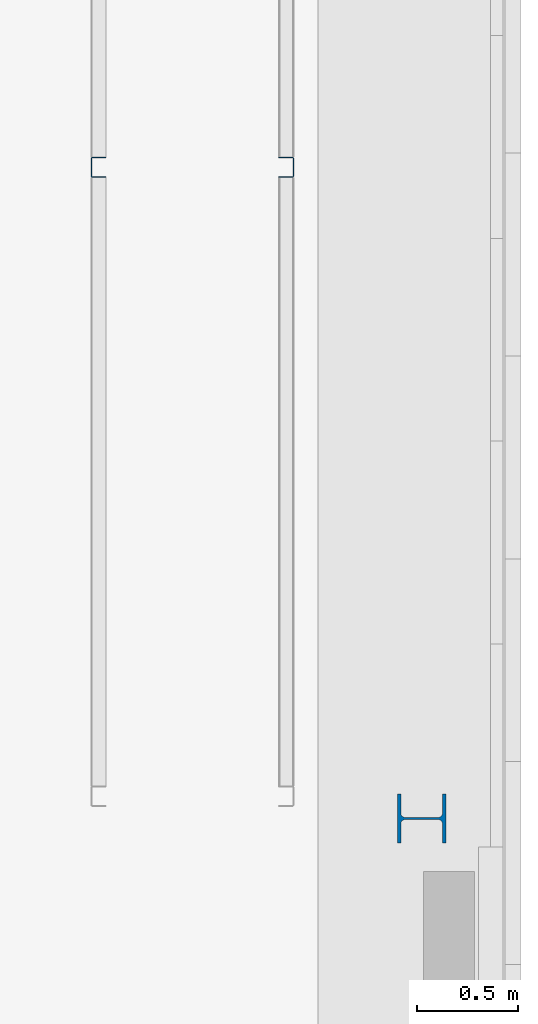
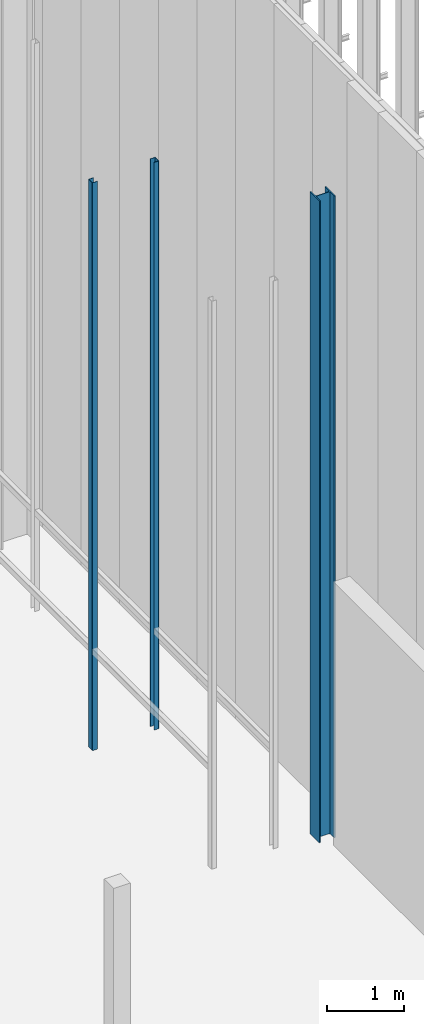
# One storey, part 14 of 302: 3 columns.
"""IFC2X3 building model written with IfcOpenShell, lengths in metres."""

from ifc_helpers import new_model, entity, si_unit, converted_unit, derived_unit, direction, frame, frame_2d, origin, place, context, subcontext, project, spatial, polyline, circle_curve, parameter, trimmed, segment, composite_curve, outline, extrude, source, transform, mapped, material, type_object, type_shapes, element, save


model = new_model("IFC2X3")

# Units and contexts
model_context = context("Model", 3, precision=1e-05, world=origin(), true_north=direction((6.12303176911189e-17, 1.0)))
body_context = subcontext(model_context, "Body", "Model", "MODEL_VIEW")
ifc_project = project(units=[si_unit("LENGTHUNIT", "METRE"), si_unit("AREAUNIT", "SQUARE_METRE"), si_unit("VOLUMEUNIT", "CUBIC_METRE"), converted_unit("PLANEANGLEUNIT", "DEGREE", entity("IfcRatioMeasure", 0.0174532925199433), si_unit("PLANEANGLEUNIT", "RADIAN"), dimensions=[0, 0, 0, 0, 0, 0, 0]), si_unit("MASSUNIT", "GRAM", prefix="KILO"), derived_unit("MASSDENSITYUNIT", [(si_unit("MASSUNIT", "GRAM", prefix="KILO"), 1), (si_unit("LENGTHUNIT", "METRE"), -3)]), derived_unit("MOMENTOFINERTIAUNIT", [(si_unit("LENGTHUNIT", "METRE"), 4)]), si_unit("TIMEUNIT", "SECOND"), si_unit("FREQUENCYUNIT", "HERTZ"), si_unit("THERMODYNAMICTEMPERATUREUNIT", "DEGREE_CELSIUS"), derived_unit("THERMALTRANSMITTANCEUNIT", [(si_unit("MASSUNIT", "GRAM", prefix="KILO"), 1), (si_unit("THERMODYNAMICTEMPERATUREUNIT", "KELVIN"), -1), (si_unit("TIMEUNIT", "SECOND"), -3)]), derived_unit("VOLUMETRICFLOWRATEUNIT", [(si_unit("LENGTHUNIT", "METRE"), 3), (si_unit("TIMEUNIT", "SECOND"), -1)]), si_unit("ELECTRICCURRENTUNIT", "AMPERE"), si_unit("ELECTRICVOLTAGEUNIT", "VOLT"), si_unit("POWERUNIT", "WATT"), si_unit("FORCEUNIT", "NEWTON", prefix="KILO"), si_unit("ILLUMINANCEUNIT", "LUX"), si_unit("LUMINOUSFLUXUNIT", "LUMEN"), si_unit("LUMINOUSINTENSITYUNIT", "CANDELA"), derived_unit("USERDEFINED", [(si_unit("MASSUNIT", "GRAM", prefix="KILO"), -1), (si_unit("LENGTHUNIT", "METRE"), -2), (si_unit("TIMEUNIT", "SECOND"), 3), (si_unit("LUMINOUSFLUXUNIT", "LUMEN"), 1)]), derived_unit("LINEARVELOCITYUNIT", [(si_unit("LENGTHUNIT", "METRE"), 1), (si_unit("TIMEUNIT", "SECOND"), -1)]), si_unit("PRESSUREUNIT", "PASCAL"), derived_unit("USERDEFINED", [(si_unit("LENGTHUNIT", "METRE"), -2), (si_unit("MASSUNIT", "GRAM", prefix="KILO"), 1), (si_unit("TIMEUNIT", "SECOND"), -2)]), derived_unit("LINEARFORCEUNIT", [(si_unit("MASSUNIT", "GRAM", prefix="KILO"), 1), (si_unit("LENGTHUNIT", "METRE"), 1), (si_unit("TIMEUNIT", "SECOND"), -2), (si_unit("LENGTHUNIT", "METRE"), -1)]), derived_unit("PLANARFORCEUNIT", [(si_unit("MASSUNIT", "GRAM", prefix="KILO"), 1), (si_unit("LENGTHUNIT", "METRE"), 1), (si_unit("TIMEUNIT", "SECOND"), -2), (si_unit("LENGTHUNIT", "METRE"), -2)])], contexts=[model_context])

# Site, building, storey
site_placement = place(None, origin())
site = spatial("IfcSite", under=ifc_project, at=site_placement, Name="Default", CompositionType="ELEMENT")
building_placement = place(site_placement, origin())
building = spatial("IfcBuilding", under=site, at=building_placement, CompositionType="ELEMENT")
storey_placement = place(building_placement, frame((0.0, 0.0, -1.3)))
storey = spatial("IfcBuildingStorey", under=building, at=storey_placement, Name="00_EG", CompositionType="ELEMENT", Elevation=-1.3)

# Columns
ifc_material = material(Name="Metall - Baustahl S235")
column_type_1 = type_object("IfcColumnType", Name="HEB Stütze:HEB 240", PredefinedType="COLUMN", material=ifc_material)
shared_shape_1 = source(origin(), body_context, "Body", "SweptSolid", [
    extrude(outline(composite_curve([segment(polyline([(0.103, -0.12), (0.12, -0.12)]), True, "CONTINUOUS"), segment(polyline([(0.12, -0.12), (0.12, 0.12)]), True, "CONTINUOUS"), segment(polyline([(0.12, 0.12), (0.103, 0.12)]), True, "CONTINUOUS"), segment(polyline([(0.103, 0.12), (0.103, 0.0268)]), True, "CONTINUOUS"), segment(trimmed(circle_curve(frame_2d((0.0812, 0.0268), x_axis=(1.0, 0.0)), 0.0218), [parameter(269.999999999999)], [parameter(0.0)], True, "PARAMETER"), False, "CONTINUOUS"), segment(polyline([(0.0811999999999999, 0.005), (-0.0812, 0.005)]), True, "CONTINUOUS"), segment(trimmed(circle_curve(frame_2d((-0.0812, 0.0268), x_axis=(0.0, -1.0)), 0.0218), [parameter(270.0)], [parameter(0.0)], True, "PARAMETER"), False, "CONTINUOUS"), segment(polyline([(-0.103, 0.0268), (-0.103, 0.12)]), True, "CONTINUOUS"), segment(polyline([(-0.103, 0.12), (-0.12, 0.12)]), True, "CONTINUOUS"), segment(polyline([(-0.12, 0.12), (-0.12, -0.12)]), True, "CONTINUOUS"), segment(polyline([(-0.12, -0.12), (-0.103, -0.12)]), True, "CONTINUOUS"), segment(polyline([(-0.103, -0.12), (-0.103, -0.0268)]), True, "CONTINUOUS"), segment(trimmed(circle_curve(frame_2d((-0.0812, -0.0268), x_axis=(-1.0, 0.0)), 0.0218), [parameter(269.999999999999)], [parameter(0.0)], True, "PARAMETER"), False, "CONTINUOUS"), segment(polyline([(-0.0812, -0.00499999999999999), (0.0812, -0.00499999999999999)]), True, "CONTINUOUS"), segment(trimmed(circle_curve(frame_2d((0.0812, -0.0267999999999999), x_axis=(0.0, 1.0)), 0.0218), [parameter(269.999999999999)], [parameter(0.0)], True, "PARAMETER"), False, "CONTINUOUS"), segment(polyline([(0.103, -0.0268), (0.103, -0.12)]), True, "CONTINUOUS")], self_intersect=False)), frame((0.0, 0.0, -0.0300000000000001), z_axis=(0.0, 0.0, 1.0), x_axis=(0.0, -1.0, 0.0)), (0.0, 0.0, 1.0), 10.175),
])
type_shapes(column_type_1, [shared_shape_1])
column_1_placement = place(storey_placement, frame((-177.760111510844, 23.8880889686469, 1.3), z_axis=(0.0, 0.0, 1.0), x_axis=(0.0, -1.0, 0.0)))
element("IfcColumn", 1, at=column_1_placement, inside=storey, type_object=column_type_1, material=ifc_material, Name="HEB Stütze:HEB 240", ObjectType="HEB Stütze:HEB 240", context=body_context, shape_type="MappedRepresentation", body=[
    mapped(shared_shape_1, transform((0.0, 0.0, 0.0), scale=1.0)),
])
column_type_2 = type_object("IfcColumnType", Name="Leichter Stahl Schlossschrauben Stütze:C 100", PredefinedType="COLUMN", material=ifc_material)
shared_shape_2 = source(origin(), body_context, "Body", "SweptSolid", [
    extrude(outline(composite_curve([segment(polyline([(-0.0469749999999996, -0.0499999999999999), (0.0214500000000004, -0.0499999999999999)]), True, "CONTINUOUS"), segment(trimmed(circle_curve(frame_2d((0.0214500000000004, -0.0434249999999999), x_axis=(0.0, -1.0)), 0.00657500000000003), [parameter(0.0)], [parameter(89.9999999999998)], True, "PARAMETER"), True, "CONTINUOUS"), segment(polyline([(0.0280250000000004, -0.0434249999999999), (0.0280250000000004, 0.0434250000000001)]), True, "CONTINUOUS"), segment(trimmed(circle_curve(frame_2d((0.0214500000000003, 0.0434250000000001), x_axis=(1.0, 0.0)), 0.0065750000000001), [parameter(0.0)], [parameter(89.9999999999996)], True, "PARAMETER"), True, "CONTINUOUS"), segment(polyline([(0.0214500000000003, 0.0500000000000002), (-0.0469750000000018, 0.0500000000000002)]), True, "CONTINUOUS"), segment(polyline([(-0.0469750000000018, 0.0500000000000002), (-0.0469750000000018, 0.0450000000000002)]), True, "CONTINUOUS"), segment(polyline([(-0.0469750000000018, 0.0450000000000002), (0.0214500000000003, 0.0450000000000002)]), True, "CONTINUOUS"), segment(trimmed(circle_curve(frame_2d((0.0214500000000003, 0.0434249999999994), x_axis=(0.0, 1.0)), 0.00157500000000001), [parameter(269.999999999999)], [parameter(0.0)], True, "PARAMETER"), False, "CONTINUOUS"), segment(polyline([(0.0230250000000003, 0.0434249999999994), (0.0230250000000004, -0.0434249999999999)]), True, "CONTINUOUS"), segment(trimmed(circle_curve(frame_2d((0.0214500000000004, -0.0434249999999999), x_axis=(1.0, 0.0)), 0.00157500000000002), [parameter(270.0)], [parameter(0.0)], True, "PARAMETER"), False, "CONTINUOUS"), segment(polyline([(0.0214500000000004, -0.0449999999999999), (-0.0469749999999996, -0.0449999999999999)]), True, "CONTINUOUS"), segment(polyline([(-0.0469749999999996, -0.0449999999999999), (-0.0469749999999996, -0.0499999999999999)]), True, "CONTINUOUS")], self_intersect=False)), frame((0.0499999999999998, 0.0280250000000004, -0.0300000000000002), z_axis=(0.0, 0.0, 1.0), x_axis=(0.0, -1.0, 0.0)), (0.0, 0.0, 1.0), 9.0),
])
type_shapes(column_type_2, [shared_shape_2])
column_2_placement = place(storey_placement, frame((-179.390111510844, 27.148088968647, 1.3), z_axis=(0.0, 0.0, 1.0), x_axis=(0.0, -1.0, 0.0)))
element("IfcColumn", 2, at=column_2_placement, inside=storey, type_object=column_type_2, material=ifc_material, Name="Leichter Stahl Schlossschrauben Stütze:C 100", ObjectType="Leichter Stahl Schlossschrauben Stütze:C 100", context=body_context, shape_type="MappedRepresentation", body=[
    mapped(shared_shape_2, transform((0.0, 0.0, 0.0), scale=1.0)),
])
column_type_3 = type_object("IfcColumnType", Name="Leichter Stahl Schlossschrauben Stütze:C 100", PredefinedType="COLUMN", material=ifc_material)
shared_shape_3 = source(origin(), body_context, "Body", "SweptSolid", [
    extrude(outline(composite_curve([segment(polyline([(-0.0214500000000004, -0.0499999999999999), (0.0469749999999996, -0.0499999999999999)]), True, "CONTINUOUS"), segment(polyline([(0.0469749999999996, -0.0499999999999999), (0.0469749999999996, -0.0449999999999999)]), True, "CONTINUOUS"), segment(polyline([(0.0469749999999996, -0.0449999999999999), (-0.0214500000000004, -0.045)]), True, "CONTINUOUS"), segment(trimmed(circle_curve(frame_2d((-0.0214500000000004, -0.043425), x_axis=(0.0, -1.0)), 0.00157500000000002), [parameter(270.0)], [parameter(0.0)], True, "PARAMETER"), False, "CONTINUOUS"), segment(polyline([(-0.0230250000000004, -0.0434249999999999), (-0.0230250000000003, 0.0434249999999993)]), True, "CONTINUOUS"), segment(trimmed(circle_curve(frame_2d((-0.0214500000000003, 0.0434249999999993), x_axis=(-1.0, 0.0)), 0.00157500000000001), [parameter(269.999999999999)], [parameter(0.0)], True, "PARAMETER"), False, "CONTINUOUS"), segment(polyline([(-0.0214500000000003, 0.0450000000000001), (0.0469750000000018, 0.0450000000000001)]), True, "CONTINUOUS"), segment(polyline([(0.0469750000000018, 0.0450000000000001), (0.0469750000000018, 0.0500000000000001)]), True, "CONTINUOUS"), segment(polyline([(0.0469750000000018, 0.0500000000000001), (-0.0214500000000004, 0.0500000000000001)]), True, "CONTINUOUS"), segment(trimmed(circle_curve(frame_2d((-0.0214500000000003, 0.043425), x_axis=(0.0, 1.0)), 0.0065750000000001), [parameter(0.0)], [parameter(89.9999999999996)], True, "PARAMETER"), True, "CONTINUOUS"), segment(polyline([(-0.0280250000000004, 0.043425), (-0.0280250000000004, -0.043425)]), True, "CONTINUOUS"), segment(trimmed(circle_curve(frame_2d((-0.0214500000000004, -0.0434249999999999), x_axis=(-1.0, 0.0)), 0.00657500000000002), [parameter(0.0)], [parameter(89.9999999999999)], True, "PARAMETER"), True, "CONTINUOUS")], self_intersect=False)), frame((0.0499999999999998, -0.0280250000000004, -0.0300000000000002), z_axis=(0.0, 0.0, 1.0), x_axis=(0.0, -1.0, 0.0)), (0.0, 0.0, 1.0), 9.0),
])
type_shapes(column_type_3, [shared_shape_3])
column_3_placement = place(storey_placement, frame((-178.390111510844, 27.148088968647, 1.3), z_axis=(0.0, 0.0, 1.0), x_axis=(0.0, -1.0, 0.0)))
element("IfcColumn", 3, at=column_3_placement, inside=storey, type_object=column_type_3, material=ifc_material, Name="Leichter Stahl Schlossschrauben Stütze:C 100", ObjectType="Leichter Stahl Schlossschrauben Stütze:C 100", context=body_context, shape_type="MappedRepresentation", body=[
    mapped(shared_shape_3, transform((0.0, 0.0, 0.0), scale=1.0)),
])

save(model, "model.ifc")
